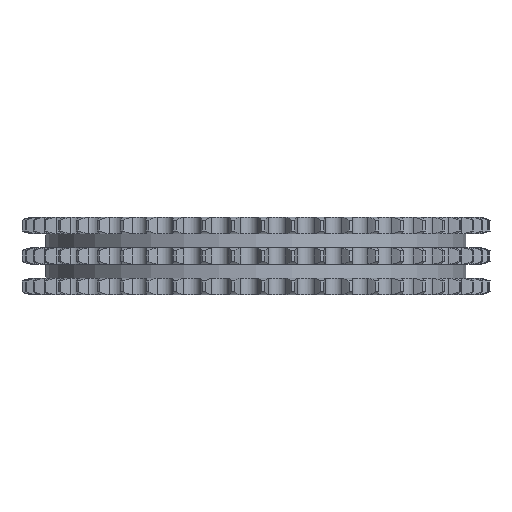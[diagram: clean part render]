
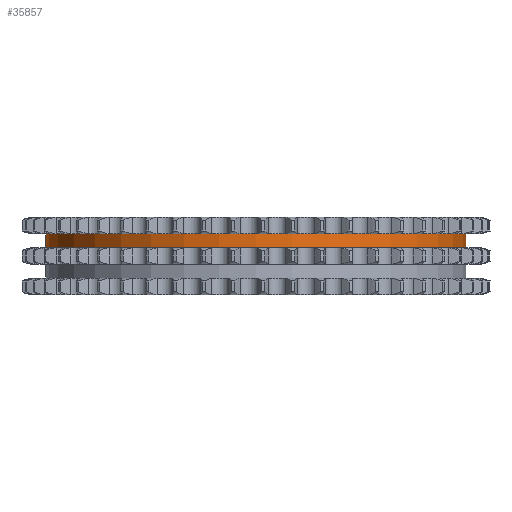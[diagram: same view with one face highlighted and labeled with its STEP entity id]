
A CAD part, left-side view. The second image highlights one B-rep face of the part: STEP entity #35857.
In plain terms, the highlighted cylindrical face has radius 113.888 mm (diameter 227.775 mm), a partial arc.
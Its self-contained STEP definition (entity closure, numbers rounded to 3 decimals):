
#7041=DIRECTION('',(0.,0.,-1.));
#7042=VECTOR('',#7041,7.4);
#7043=CARTESIAN_POINT('',(0.,113.888,11.95));
#7044=LINE('',#7043,#7042);
#7048=CARTESIAN_POINT('',(0.,0.,11.95));
#7049=DIRECTION('',(0.,0.,1.));
#7050=DIRECTION('',(0.,1.,0.));
#7051=AXIS2_PLACEMENT_3D('',#7048,#7049,#7050);
#7056=DIRECTION('',(0.,0.,-1.));
#7057=VECTOR('',#7056,7.4);
#7058=CARTESIAN_POINT('',(0.,-113.888,11.95));
#7059=LINE('',#7058,#7057);
#7063=CARTESIAN_POINT('',(0.,0.,4.55));
#7064=DIRECTION('',(0.,0.,1.));
#7065=DIRECTION('',(0.,1.,0.));
#7066=AXIS2_PLACEMENT_3D('',#7063,#7064,#7065);
#26904=CARTESIAN_POINT('',(0.,113.888,11.95));
#26905=CARTESIAN_POINT('',(0.,113.888,4.55));
#26906=VERTEX_POINT('',#26904);
#26907=VERTEX_POINT('',#26905);
#26908=CARTESIAN_POINT('',(0.,-113.888,11.95));
#26909=CARTESIAN_POINT('',(0.,-113.888,4.55));
#26910=VERTEX_POINT('',#26908);
#26911=VERTEX_POINT('',#26909);
#35845=CARTESIAN_POINT('',(0.,0.,13.145));
#35846=DIRECTION('',(0.,0.,-1.));
#35847=DIRECTION('',(0.,-1.,0.));
#35848=AXIS2_PLACEMENT_3D('',#35845,#35846,#35847);
#35849=CYLINDRICAL_SURFACE('',#35848,113.888);
#35850=ORIENTED_EDGE('',*,*,#35835,.F.);
#35851=ORIENTED_EDGE('',*,*,#35825,.T.);
#35852=ORIENTED_EDGE('',*,*,#35839,.T.);
#35854=ORIENTED_EDGE('',*,*,#35853,.F.);
#35855=EDGE_LOOP('',(#35850,#35851,#35852,#35854));
#35856=FACE_OUTER_BOUND('',#35855,.F.);
#35857=ADVANCED_FACE('',(#35856),#35849,.T.);
#7052=CIRCLE('',#7051,113.888);
#7067=CIRCLE('',#7066,113.888);
#35825=EDGE_CURVE('',#26906,#26910,#7052,.T.);
#35835=EDGE_CURVE('',#26906,#26907,#7044,.T.);
#35839=EDGE_CURVE('',#26910,#26911,#7059,.T.);
#35853=EDGE_CURVE('',#26907,#26911,#7067,.T.);
